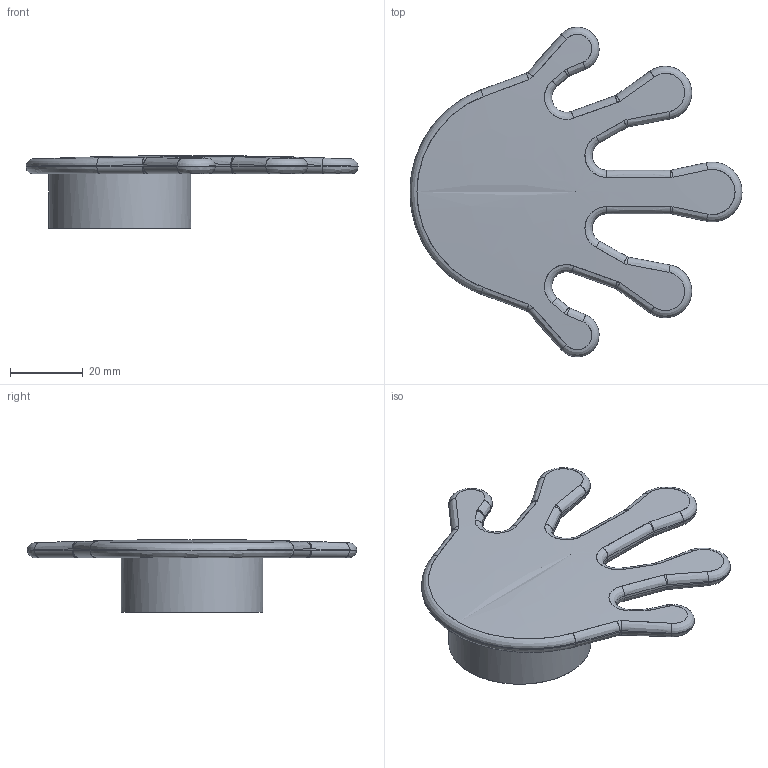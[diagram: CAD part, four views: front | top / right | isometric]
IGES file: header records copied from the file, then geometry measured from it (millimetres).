
Start section: C
Global section: file name: 8181-92.igs; native system: By Siemens PLM Incorporated; preprocessor: XPlus GENERIC/IGES 16.0.42; author: Author; organization: Title; date: 20231129.115551; units: millimetre
Bounding box: 91.2 x 90.52 x 20 mm (x, y, z)
Surface area: 13956.9 mm2 (no closed solid volume)
Topology: 0 solids, 0 shells, 154 faces, 753 edges, 752 vertices
Faces by surface type: bspline 154
